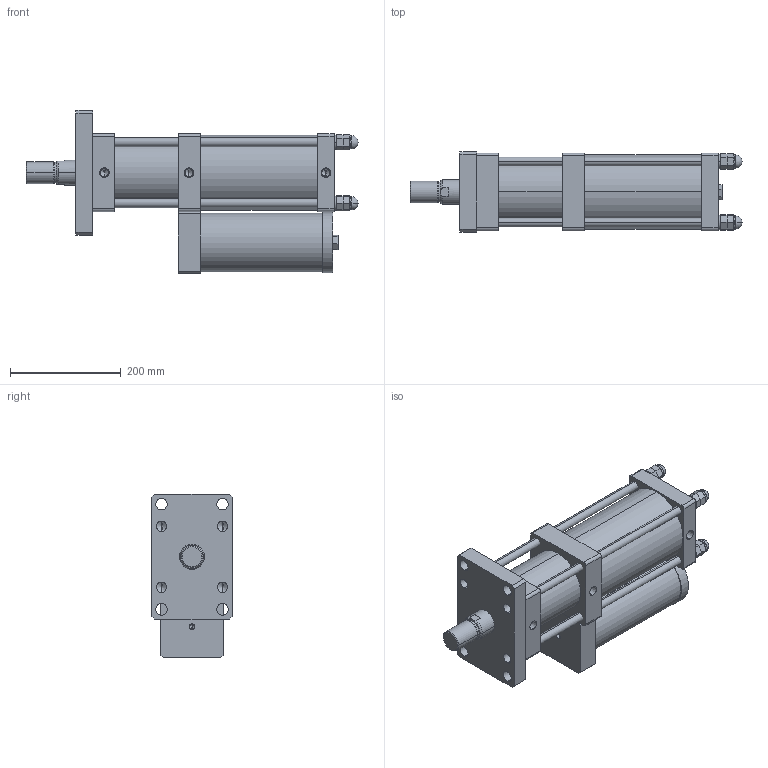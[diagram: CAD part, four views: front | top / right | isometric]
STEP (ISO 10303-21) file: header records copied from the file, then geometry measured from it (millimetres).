
FILE_DESCRIPTION (( 'STEP AP203' ), '1' );
FILE_NAME ('MPT-100-50-10-13T.STEP', '2016-03-11T05:44:32', ( 'WIN' ), ( '' ), 'SwSTEP 2.0', 'SolidWorks 2014', '' );
FILE_SCHEMA (( 'CONFIG_CONTROL_DESIGN' ));
Length unit declared in the file: millimetre
Products named in the file (1): MPT-100-50-10-13T
Bounding box: 599 x 145 x 294.5 mm (x, y, z)
Volume: 10269460.7 mm3; surface area: 673354 mm2
Topology: 13 solids, 13 shells, 400 faces, 980 edges, 555 vertices
Faces by surface type: plane 188, cylinder 80, torus 48, bspline 48, cone 36
Entity records: 12751 total; most frequent: CARTESIAN_POINT 3688, DIRECTION 1936, ORIENTED_EDGE 1812, EDGE_CURVE 906, AXIS2_PLACEMENT_3D 727, VERTEX_POINT 555, VECTOR 482, LINE 482
